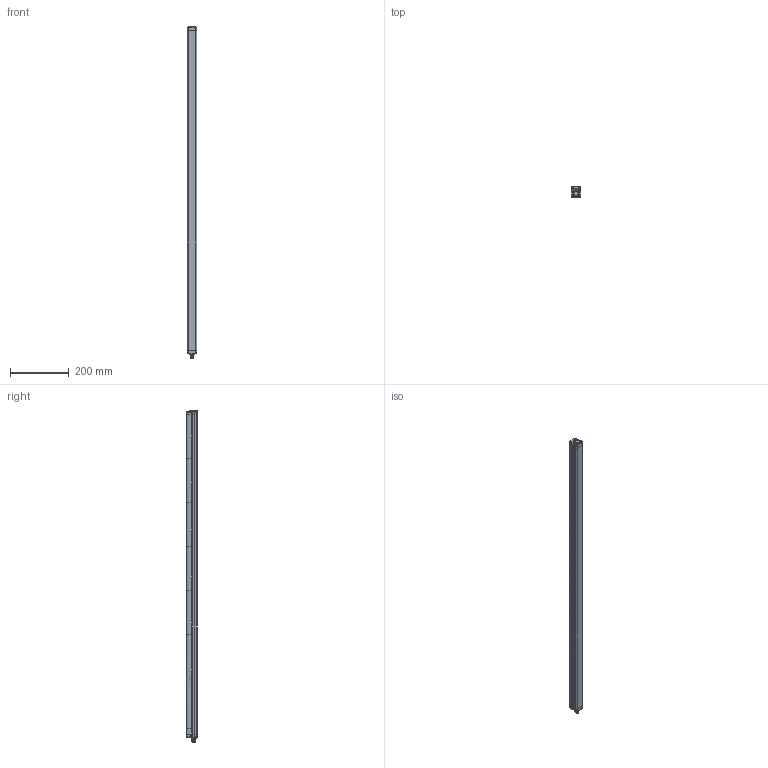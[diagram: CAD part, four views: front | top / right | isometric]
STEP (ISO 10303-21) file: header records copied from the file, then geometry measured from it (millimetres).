
FILE_DESCRIPTION(/* description */ (''),/* implementation_level */ '2;1');
FILE_NAME(/* name */ 'DSD-0163.stp',/* time_stamp */ '2020-07-16T11:12:00+02:00',/* author */ (''),/* organization */ (''),/* preprocessor_version */ 'ST-DEVELOPER v16.7',/* originating_system */ 'SIEMENS PLM Software NX 12.0',/* authorisation */ '');
FILE_SCHEMA (('AUTOMOTIVE_DESIGN { 1 0 10303 214 3 1 1 1 }'));
Products named in the file (1): AP025815_00_1-DSD-0163
Bounding box: 32.3 x 36.9 x 1133.24 mm (x, y, z)
Volume: 1126795.1 mm3; surface area: 264891.1 mm2
Topology: 12 solids, 716 shells, 1637 faces, 5114 edges, 4025 vertices
Faces by surface type: cylinder 608, bspline 561, plane 378, sphere 53, cone 29, torus 8
Full cylindrical faces by diameter (mm): 1 x10, 1.5 x6, 2 x6, 2.05 x4, 2.5 x12, 2.7 x10, 2.9 x6, 3 x12, 3.4 x6, 3.6 x12, 4.7 x2, 5 x10, 5.3 x2, 7.5 x1, 8 x1, 8.2 x1, 9.3 x1, 9.5 x1, 9.55 x1, 10.5 x1, 11 x2, 12 x12, 13.97 x1, 14.3 x1, 16 x2
Entity records: 84465 total; most frequent: CARTESIAN_POINT 35782, ORIENTED_EDGE 6966, DIRECTION 5973, EDGE_CURVE 4909, VERTEX_POINT 4020, AXIS2_PLACEMENT_3D 2332, EDGE_LOOP 1873, PRESENTATION_STYLE_ASSIGNMENT 1644
